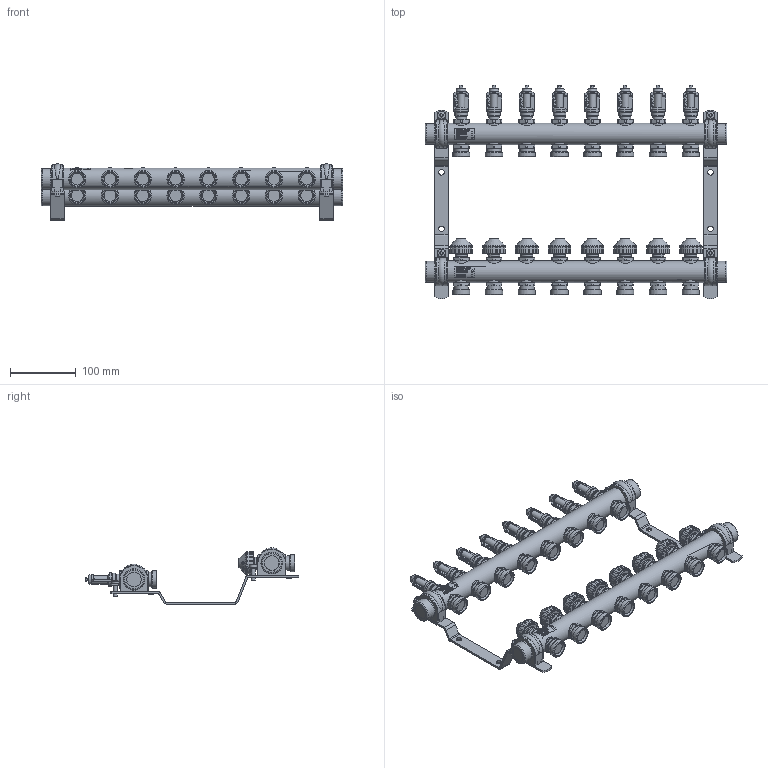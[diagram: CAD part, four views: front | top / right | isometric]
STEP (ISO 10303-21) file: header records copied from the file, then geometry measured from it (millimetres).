
FILE_DESCRIPTION((''),'2;1');
FILE_NAME('C:\Users\duckj\Desktop\10026190.stp','2017-04-19T10:05:32',('duckj'),(''),'Autodesk Inventor 2013','Autodesk Inventor 2013','');
FILE_SCHEMA(('CONFIG_CONTROL_DESIGN'));
Length unit declared in the file: millimetre
Products named in the file (4): 19042017_006; 19042017_008; 19042017_009; 26102016_005
Assembly tree (4 placements, depth 2):
  19042017_006
    19042017_008
    19042017_009
    26102016_005  x2
Bounding box: 460 x 325.94 x 85.69 mm (x, y, z)
Volume: 1270314.3 mm3; surface area: 249620.8 mm2
Topology: 12 solids, 12 shells, 4592 faces, 12242 edges, 7931 vertices
Faces by surface type: plane 2547, cylinder 795, bspline 610, cone 540, torus 96, sphere 4
Full cylindrical faces by diameter (mm): 3 x8, 6 x8, 8.5 x4, 12 x4, 15 x8, 15.5 x8, 16.5 x8, 18 x8, 19.5 x8, 21.8 x32, 22 x52, 26.441 x16, 31.8 x4, 33 x5, 33.7 x8
Entity records: 195147 total; most frequent: CARTESIAN_POINT 86916, ORIENTED_EDGE 22900, DIRECTION 19197, EDGE_CURVE 11450, VERTEX_POINT 7599, AXIS2_PLACEMENT_3D 6535, VECTOR 6127, LINE 6127
